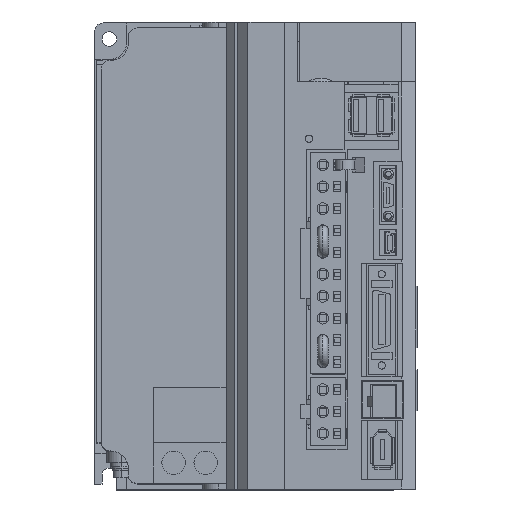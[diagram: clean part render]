
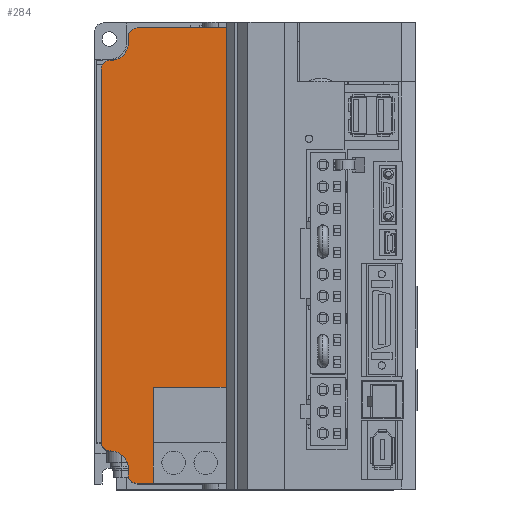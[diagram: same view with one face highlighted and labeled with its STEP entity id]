
A CAD part, top view. The second image highlights one B-rep face of the part: STEP entity #284.
In plain terms, the highlighted planar face has unit normal (0, 0, 1).
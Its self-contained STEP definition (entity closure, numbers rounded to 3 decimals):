
#41 = ORIENTED_EDGE ( 'NONE', *, *, #504, .F. ) ;
#158 = EDGE_LOOP ( 'NONE', ( #264, #41, #499, #513, #454, #438, #414, #597, #570, #531, #551, #537, #1031, #926, #853, #707 ) ) ;
#166 = VERTEX_POINT ( 'NONE', #18132 ) ;
#261 = EDGE_CURVE ( 'NONE', #166, #613, #18247, .T. ) ;
#264 = ORIENTED_EDGE ( 'NONE', *, *, #261, .F. ) ;
#284 = ADVANCED_FACE ( 'NONE', ( #18295 ), #18290, .F. ) ;
#296 = VERTEX_POINT ( 'NONE', #18324 ) ;
#311 = EDGE_CURVE ( 'NONE', #318, #63629, #18310, .T. ) ;
#312 = VERTEX_POINT ( 'NONE', #18306 ) ;
#318 = VERTEX_POINT ( 'NONE', #18370 ) ;
#412 = EDGE_CURVE ( 'NONE', #296, #312, #18491, .T. ) ;
#414 = ORIENTED_EDGE ( 'NONE', *, *, #412, .F. ) ;
#437 = VERTEX_POINT ( 'NONE', #18530 ) ;
#438 = ORIENTED_EDGE ( 'NONE', *, *, #439, .F. ) ;
#439 = EDGE_CURVE ( 'NONE', #312, #437, #18529, .T. ) ;
#442 = VERTEX_POINT ( 'NONE', #18518 ) ;
#447 = EDGE_CURVE ( 'NONE', #437, #442, #18573, .T. ) ;
#454 = ORIENTED_EDGE ( 'NONE', *, *, #447, .F. ) ;
#471 = EDGE_CURVE ( 'NONE', #318, #442, #18544, .T. ) ;
#499 = ORIENTED_EDGE ( 'NONE', *, *, #311, .F. ) ;
#504 = EDGE_CURVE ( 'NONE', #63629, #166, #18651, .T. ) ;
#513 = ORIENTED_EDGE ( 'NONE', *, *, #471, .T. ) ;
#525 = VERTEX_POINT ( 'NONE', #18681 ) ;
#530 = EDGE_CURVE ( 'NONE', #558, #541, #18680, .T. ) ;
#531 = ORIENTED_EDGE ( 'NONE', *, *, #530, .T. ) ;
#533 = EDGE_CURVE ( 'NONE', #525, #541, #18673, .T. ) ;
#535 = EDGE_CURVE ( 'NONE', #538, #525, #18663, .T. ) ;
#537 = ORIENTED_EDGE ( 'NONE', *, *, #535, .F. ) ;
#538 = VERTEX_POINT ( 'NONE', #18719 ) ;
#541 = VERTEX_POINT ( 'NONE', #18717 ) ;
#551 = ORIENTED_EDGE ( 'NONE', *, *, #533, .F. ) ;
#558 = VERTEX_POINT ( 'NONE', #18746 ) ;
#565 = EDGE_CURVE ( 'NONE', #558, #598, #18740, .T. ) ;
#570 = ORIENTED_EDGE ( 'NONE', *, *, #565, .F. ) ;
#597 = ORIENTED_EDGE ( 'NONE', *, *, #599, .F. ) ;
#598 = VERTEX_POINT ( 'NONE', #18762 ) ;
#599 = EDGE_CURVE ( 'NONE', #598, #296, #18761, .T. ) ;
#613 = VERTEX_POINT ( 'NONE', #18807 ) ;
#696 = VERTEX_POINT ( 'NONE', #18958 ) ;
#707 = ORIENTED_EDGE ( 'NONE', *, *, #956, .F. ) ;
#853 = ORIENTED_EDGE ( 'NONE', *, *, #981, .F. ) ;
#885 = VERTEX_POINT ( 'NONE', #19234 ) ;
#926 = ORIENTED_EDGE ( 'NONE', *, *, #1011, .F. ) ;
#956 = EDGE_CURVE ( 'NONE', #613, #696, #19342, .T. ) ;
#981 = EDGE_CURVE ( 'NONE', #696, #885, #19410, .T. ) ;
#1001 = VERTEX_POINT ( 'NONE', #19446 ) ;
#1011 = EDGE_CURVE ( 'NONE', #885, #1001, #19432, .T. ) ;
#1030 = EDGE_CURVE ( 'NONE', #1001, #538, #19530, .T. ) ;
#1031 = ORIENTED_EDGE ( 'NONE', *, *, #1030, .F. ) ;
#18132 = CARTESIAN_POINT ( 'NONE',  ( 15., -119.5, 151. ) ) ;
#18244 = DIRECTION ( 'NONE',  ( 0., -1., 0. ) ) ;
#18245 = VECTOR ( 'NONE', #18244, 1000. ) ;
#18246 = CARTESIAN_POINT ( 'NONE',  ( 15., -152.5, 151. ) ) ;
#18247 = LINE ( 'NONE', #18246, #18245 ) ;
#18286 = DIRECTION ( 'NONE',  ( -1., 0., 0. ) ) ;
#18287 = DIRECTION ( 'NONE',  ( 0., 0., -1. ) ) ;
#18288 = CARTESIAN_POINT ( 'NONE',  ( 40., 46.387, 151. ) ) ;
#18289 = AXIS2_PLACEMENT_3D ( 'NONE', #18288, #18287, #18286 ) ;
#18290 = PLANE ( 'NONE',  #18289 ) ;
#18295 = FACE_OUTER_BOUND ( 'NONE', #158, .T. ) ;
#18306 = CARTESIAN_POINT ( 'NONE',  ( 6.5, -1.6, 151. ) ) ;
#18307 = DIRECTION ( 'NONE',  ( 0., -1., 0. ) ) ;
#18308 = VECTOR ( 'NONE', #18307, 1000. ) ;
#18309 = CARTESIAN_POINT ( 'NONE',  ( 40., 46.387, 151. ) ) ;
#18310 = LINE ( 'NONE', #18309, #18308 ) ;
#18324 = CARTESIAN_POINT ( 'NONE',  ( 0.5, -7.6, 151. ) ) ;
#18370 = CARTESIAN_POINT ( 'NONE',  ( 40., 3.5, 151. ) ) ;
#18487 = DIRECTION ( 'NONE',  ( -1., 0., 0. ) ) ;
#18488 = DIRECTION ( 'NONE',  ( 0., 0., 1. ) ) ;
#18489 = CARTESIAN_POINT ( 'NONE',  ( 0.5, -1.6, 151. ) ) ;
#18490 = AXIS2_PLACEMENT_3D ( 'NONE', #18489, #18488, #18487 ) ;
#18491 = CIRCLE ( 'NONE', #18490, 6. ) ;
#18518 = CARTESIAN_POINT ( 'NONE',  ( 9.5, 3.5, 151. ) ) ;
#18525 = DIRECTION ( 'NONE',  ( 0., 1., 0. ) ) ;
#18526 = VECTOR ( 'NONE', #18525, 1000. ) ;
#18527 = CARTESIAN_POINT ( 'NONE',  ( 6.5, 0.5, 151. ) ) ;
#18529 = LINE ( 'NONE', #18527, #18526 ) ;
#18530 = CARTESIAN_POINT ( 'NONE',  ( 6.5, 0.5, 151. ) ) ;
#18541 = DIRECTION ( 'NONE',  ( -1., 0., 0. ) ) ;
#18542 = VECTOR ( 'NONE', #18541, 1000. ) ;
#18543 = CARTESIAN_POINT ( 'NONE',  ( 40., 3.5, 151. ) ) ;
#18544 = LINE ( 'NONE', #18543, #18542 ) ;
#18569 = DIRECTION ( 'NONE',  ( -1., 0., 0. ) ) ;
#18570 = DIRECTION ( 'NONE',  ( 0., 0., -1. ) ) ;
#18571 = CARTESIAN_POINT ( 'NONE',  ( 9.5, 0.5, 151. ) ) ;
#18572 = AXIS2_PLACEMENT_3D ( 'NONE', #18571, #18570, #18569 ) ;
#18573 = CIRCLE ( 'NONE', #18572, 3. ) ;
#18648 = DIRECTION ( 'NONE',  ( -1., 0., 0. ) ) ;
#18649 = VECTOR ( 'NONE', #18648, 1000. ) ;
#18650 = CARTESIAN_POINT ( 'NONE',  ( 15., -119.5, 151. ) ) ;
#18651 = LINE ( 'NONE', #18650, #18649 ) ;
#18659 = DIRECTION ( 'NONE',  ( -1., 0., 0. ) ) ;
#18660 = VECTOR ( 'NONE', #18659, 1000. ) ;
#18661 = CARTESIAN_POINT ( 'NONE',  ( 0.3, -141.4, 151. ) ) ;
#18663 = LINE ( 'NONE', #18661, #18660 ) ;
#18669 = DIRECTION ( 'NONE',  ( -1., 0., 0. ) ) ;
#18670 = DIRECTION ( 'NONE',  ( 0., 0., -1. ) ) ;
#18671 = CARTESIAN_POINT ( 'NONE',  ( 0.3, -138.4, 151. ) ) ;
#18672 = AXIS2_PLACEMENT_3D ( 'NONE', #18671, #18670, #18669 ) ;
#18673 = CIRCLE ( 'NONE', #18672, 3. ) ;
#18677 = DIRECTION ( 'NONE',  ( 0., -1., 0. ) ) ;
#18678 = VECTOR ( 'NONE', #18677, 1000. ) ;
#18679 = CARTESIAN_POINT ( 'NONE',  ( -2.7, 46.387, 151. ) ) ;
#18680 = LINE ( 'NONE', #18679, #18678 ) ;
#18681 = CARTESIAN_POINT ( 'NONE',  ( 0.3, -141.4, 151. ) ) ;
#18717 = CARTESIAN_POINT ( 'NONE',  ( -2.7, -138.4, 151. ) ) ;
#18719 = CARTESIAN_POINT ( 'NONE',  ( 0.5, -141.4, 151. ) ) ;
#18736 = DIRECTION ( 'NONE',  ( 1., 0., 0. ) ) ;
#18737 = DIRECTION ( 'NONE',  ( 0., 0., -1. ) ) ;
#18738 = CARTESIAN_POINT ( 'NONE',  ( 0.3, -10.6, 151. ) ) ;
#18739 = AXIS2_PLACEMENT_3D ( 'NONE', #18738, #18737, #18736 ) ;
#18740 = CIRCLE ( 'NONE', #18739, 3. ) ;
#18746 = CARTESIAN_POINT ( 'NONE',  ( -2.7, -10.6, 151. ) ) ;
#18758 = DIRECTION ( 'NONE',  ( 1., 0., 0. ) ) ;
#18759 = VECTOR ( 'NONE', #18758, 1000. ) ;
#18760 = CARTESIAN_POINT ( 'NONE',  ( 0.3, -7.6, 151. ) ) ;
#18761 = LINE ( 'NONE', #18760, #18759 ) ;
#18762 = CARTESIAN_POINT ( 'NONE',  ( 0.3, -7.6, 151. ) ) ;
#18807 = CARTESIAN_POINT ( 'NONE',  ( 15., -152.5, 151. ) ) ;
#18958 = CARTESIAN_POINT ( 'NONE',  ( 9.5, -152.5, 151. ) ) ;
#19234 = CARTESIAN_POINT ( 'NONE',  ( 6.5, -149.5, 151. ) ) ;
#19339 = DIRECTION ( 'NONE',  ( -1., 0., 0. ) ) ;
#19340 = VECTOR ( 'NONE', #19339, 1000. ) ;
#19341 = CARTESIAN_POINT ( 'NONE',  ( 40., -152.5, 151. ) ) ;
#19342 = LINE ( 'NONE', #19341, #19340 ) ;
#19405 = DIRECTION ( 'NONE',  ( 1., 0., 0. ) ) ;
#19406 = DIRECTION ( 'NONE',  ( 0., 0., -1. ) ) ;
#19407 = CARTESIAN_POINT ( 'NONE',  ( 9.5, -149.5, 151. ) ) ;
#19408 = AXIS2_PLACEMENT_3D ( 'NONE', #19407, #19406, #19405 ) ;
#19410 = CIRCLE ( 'NONE', #19408, 3. ) ;
#19429 = DIRECTION ( 'NONE',  ( 0., 1., 0. ) ) ;
#19430 = VECTOR ( 'NONE', #19429, 1000. ) ;
#19431 = CARTESIAN_POINT ( 'NONE',  ( 6.5, -149.5, 151. ) ) ;
#19432 = LINE ( 'NONE', #19431, #19430 ) ;
#19446 = CARTESIAN_POINT ( 'NONE',  ( 6.5, -147.4, 151. ) ) ;
#19526 = DIRECTION ( 'NONE',  ( 1., 0., 0. ) ) ;
#19527 = DIRECTION ( 'NONE',  ( 0., 0., 1. ) ) ;
#19528 = CARTESIAN_POINT ( 'NONE',  ( 0.5, -147.4, 151. ) ) ;
#19529 = AXIS2_PLACEMENT_3D ( 'NONE', #19528, #19527, #19526 ) ;
#19530 = CIRCLE ( 'NONE', #19529, 6. ) ;
#41892 = CARTESIAN_POINT ( 'NONE',  ( 40., -119.5, 151. ) ) ;
#63629 = VERTEX_POINT ( 'NONE', #41892 ) ;
